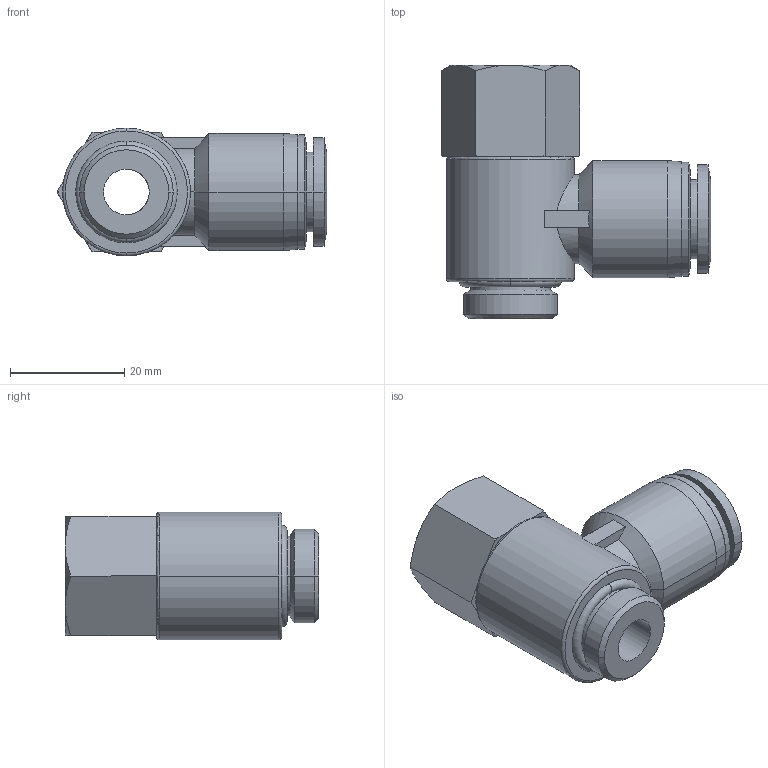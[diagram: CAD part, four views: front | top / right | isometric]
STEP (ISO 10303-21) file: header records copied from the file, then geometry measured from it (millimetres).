
FILE_DESCRIPTION (( 'STEP AP203' ), '1' );
FILE_NAME ('FVF12-03.STEP', '2020-05-11T14:30:43', ( '' ), ( '' ), 'SwSTEP 2.0', 'SolidWorks 2019', '' );
FILE_SCHEMA (( 'CONFIG_CONTROL_DESIGN' ));
Length unit declared in the file: millimetre
Products named in the file (1): FVF12-03
Bounding box: 47.22 x 44.4 x 22.4 mm (x, y, z)
Volume: 15941.6 mm3; surface area: 8270.5 mm2
Topology: 1 solids, 1 shells, 92 faces, 219 edges, 134 vertices
Faces by surface type: plane 33, cone 26, cylinder 25, torus 6, bspline 2
Entity records: 2922 total; most frequent: CARTESIAN_POINT 746, DIRECTION 467, ORIENTED_EDGE 438, EDGE_CURVE 219, AXIS2_PLACEMENT_3D 197, VERTEX_POINT 134, CIRCLE 106, EDGE_LOOP 101
